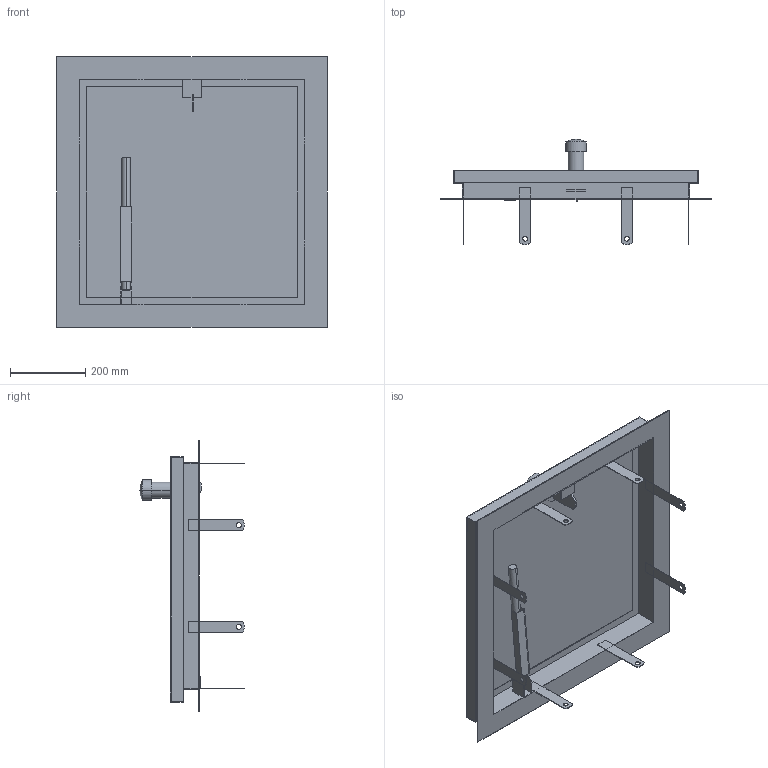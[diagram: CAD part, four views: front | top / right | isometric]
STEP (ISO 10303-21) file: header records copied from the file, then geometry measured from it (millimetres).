
FILE_DESCRIPTION((''),'2;1');
FILE_NAME('52335807','2024-12-19T07:09:32',('wep'),('HUBER SE'),'CREO PARAMETRIC BY PTC INC, 2022162','CREO PARAMETRIC BY PTC INC, 2022162','');
FILE_SCHEMA(('AUTOMOTIVE_DESIGN { 1 0 10303 214 1 1 1 1 }'));
Length unit declared in the file: millimetre
Products named in the file (1): 52335807
Bounding box: 720 x 279 x 720 mm (x, y, z)
Volume: 2118807.6 mm3; surface area: 1868470.5 mm2
Topology: 4 solids, 4 shells, 728 faces, 1984 edges, 1315 vertices
Faces by surface type: plane 416, extrusion 275, cylinder 35, sphere 2
Entity records: 24692 total; most frequent: CARTESIAN_POINT 6582, ORIENTED_EDGE 3964, DIRECTION 2685, EDGE_CURVE 1982, VECTOR 1635, LINE 1360, VERTEX_POINT 1315, B_SPLINE_CURVE_WITH_KNOTS 825
